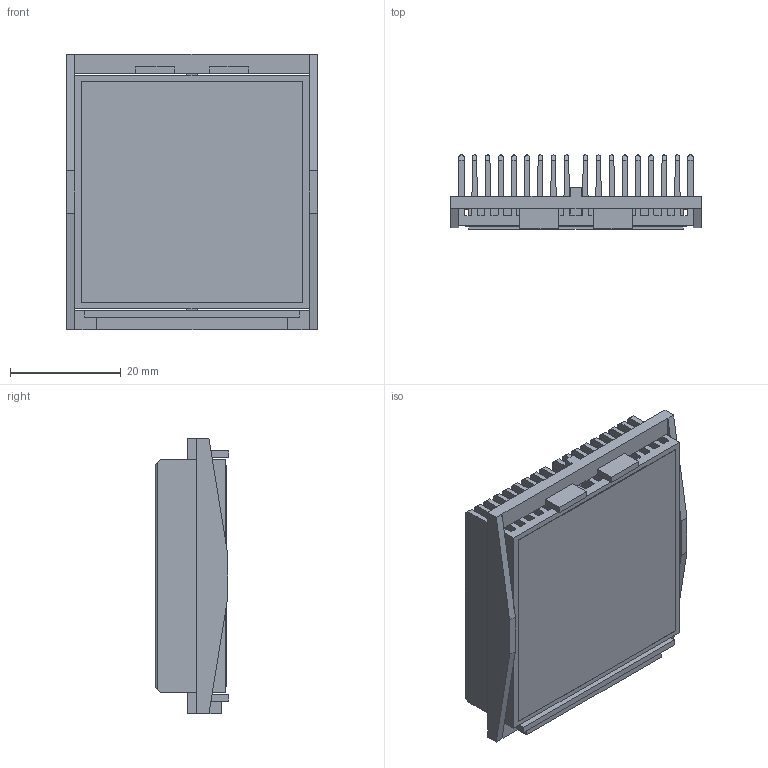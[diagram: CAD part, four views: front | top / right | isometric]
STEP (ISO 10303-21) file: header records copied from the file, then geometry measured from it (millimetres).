
FILE_DESCRIPTION (( 'STEP AP214' ), '1' );
FILE_NAME ('INL42.5001-13-1.7O.STEP', '2023-03-01T18:26:59', ( '' ), ( '' ), 'SwSTEP 2.0', 'SolidWorks 2020', '' );
FILE_SCHEMA (( 'AUTOMOTIVE_DESIGN' ));
Length unit declared in the file: millimetre
Products named in the file (1): INL42.5001-13-1.7O
Bounding box: 45.2 x 13.3 x 49.6 mm (x, y, z)
Volume: 12632.3 mm3; surface area: 26316.7 mm2
Topology: 3 solids, 3 shells, 198 faces, 578 edges, 384 vertices
Faces by surface type: plane 146, cylinder 52
Entity records: 8712 total; most frequent: CARTESIAN_POINT 1269, ORIENTED_EDGE 1156, DIRECTION 1008, EDGE_CURVE 578, VECTOR 474, LINE 474, VERTEX_POINT 384, AXIS2_PLACEMENT_3D 267
